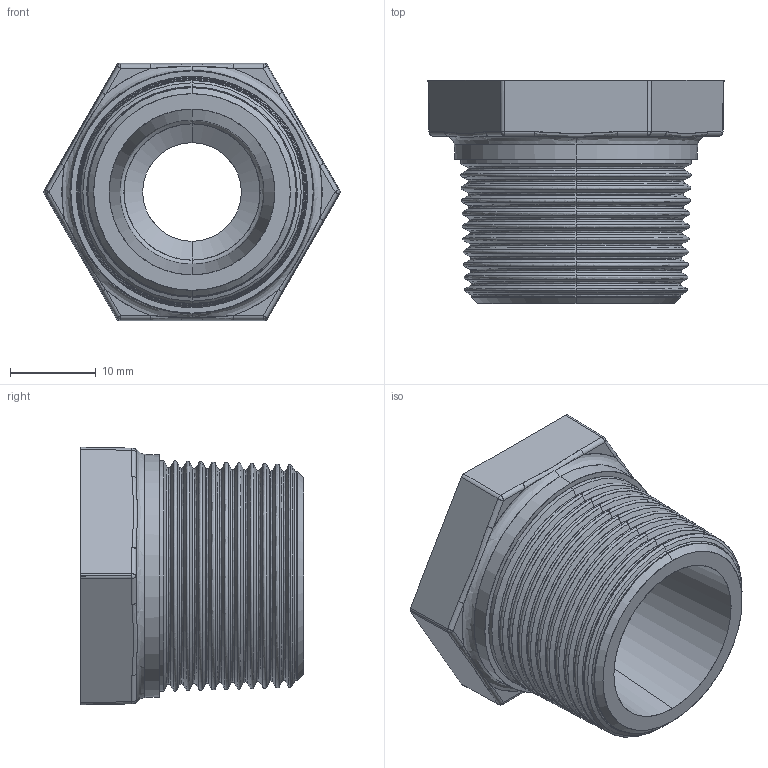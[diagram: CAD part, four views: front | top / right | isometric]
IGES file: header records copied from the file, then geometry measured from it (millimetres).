
Start section: SolidWorks IGES file using analytic representation for surfaces
Global section: file name: C:\Users\Joel Rosa\Desktop\Tubulação\12-01-OK\12-01-027.IGS; native system: SolidWorks 2011; preprocessor: SolidWorks 2011; author: Joel Rosa; date: 121203.194925; units: millimetre
Bounding box: 34.49 x 26 x 30 mm (x, y, z)
Surface area: 5659 mm2 (no closed solid volume)
Topology: 0 solids, 0 shells, 365 faces, 2675 edges, 2675 vertices
Faces by surface type: bspline 262, revolution 103
